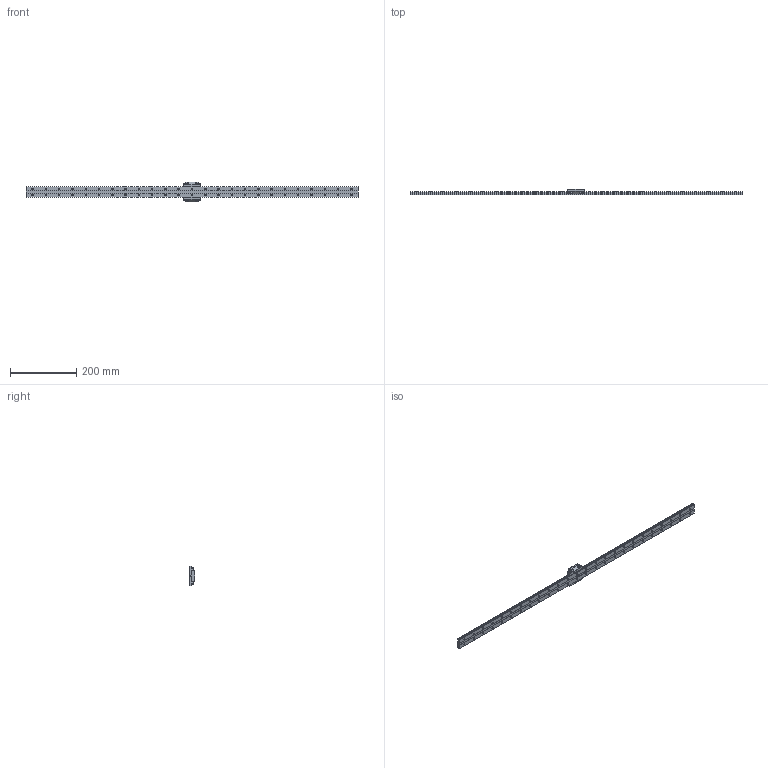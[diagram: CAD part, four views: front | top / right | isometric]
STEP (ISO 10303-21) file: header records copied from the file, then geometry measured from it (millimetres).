
FILE_DESCRIPTION( ( '' ), '1' );
FILE_NAME( 'C:/Users/v3-771-32344/Documents/Website 2016/STEP/SHW17CAM1UU1000200474.5000.stp', '2016-11-10T12:43:34', ( '' ), ( '' ), ' ', ' ', ' ' );
FILE_SCHEMA( ( 'CONFIG_CONTROL_DESIGN' ) );
Length unit declared in the file: millimetre
Products named in the file (2): 1; 2
Bounding box: 1000 x 17 x 60 mm (x, y, z)
Volume: 283008 mm3; surface area: 101885.3 mm2
Topology: 2 solids, 2 shells, 438 faces, 1110 edges, 728 vertices
Faces by surface type: cylinder 262, plane 152, cone 24
Entity records: 13722 total; most frequent: DIRECTION 2554, CARTESIAN_POINT 2278, ORIENTED_EDGE 2220, EDGE_CURVE 1110, AXIS2_PLACEMENT_3D 1004, VERTEX_POINT 728, EDGE_LOOP 602, CIRCLE 548
